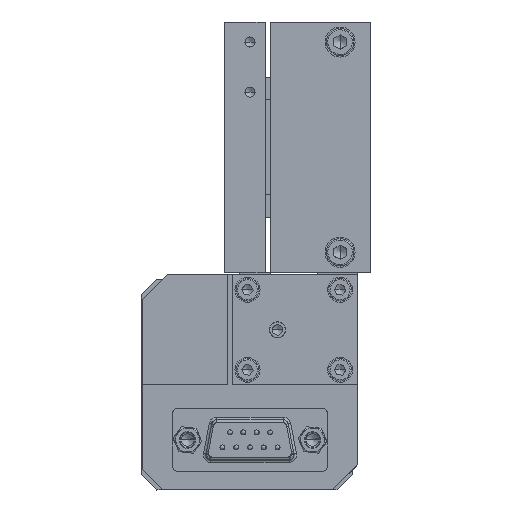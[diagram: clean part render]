
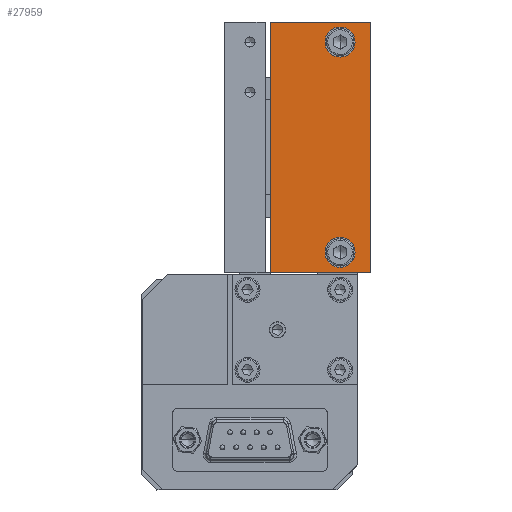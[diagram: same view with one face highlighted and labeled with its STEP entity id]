
A CAD part, left-side view. The second image highlights one B-rep face of the part: STEP entity #27959.
In plain terms, the highlighted planar face has unit normal (-1, 0, 0).
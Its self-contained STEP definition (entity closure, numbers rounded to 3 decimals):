
#2107 = VERTEX_POINT ( 'NONE', #35969 ) ;
#2148 = EDGE_CURVE ( 'NONE', #2188, #2107, #36120, .T. ) ;
#2188 = VERTEX_POINT ( 'NONE', #36239 ) ;
#2219 = EDGE_CURVE ( 'NONE', #2289, #2312, #36316, .T. ) ;
#2289 = VERTEX_POINT ( 'NONE', #36613 ) ;
#2312 = VERTEX_POINT ( 'NONE', #36685 ) ;
#27714 = VERTEX_POINT ( 'NONE', #86041 ) ;
#27716 = EDGE_CURVE ( 'NONE', #27714, #27717, #85590, .T. ) ;
#27717 = VERTEX_POINT ( 'NONE', #86124 ) ;
#27903 = EDGE_LOOP ( 'NONE', ( #27960, #27963, #27964, #27967 ) ) ;
#27944 = ORIENTED_EDGE ( 'NONE', *, *, #27945, .T. ) ;
#27945 = EDGE_CURVE ( 'NONE', #2312, #2289, #86400, .T. ) ;
#27946 = ORIENTED_EDGE ( 'NONE', *, *, #2148, .T. ) ;
#27947 = ORIENTED_EDGE ( 'NONE', *, *, #27948, .T. ) ;
#27948 = EDGE_CURVE ( 'NONE', #2107, #2188, #86395, .T. ) ;
#27959 = ADVANCED_FACE ( 'NONE', ( #86431, #86430, #86429 ), #86428, .T. ) ;
#27960 = ORIENTED_EDGE ( 'NONE', *, *, #27961, .F. ) ;
#27961 = EDGE_CURVE ( 'NONE', #27717, #27962, #86423, .T. ) ;
#27962 = VERTEX_POINT ( 'NONE', #86419 ) ;
#27963 = ORIENTED_EDGE ( 'NONE', *, *, #27716, .F. ) ;
#27964 = ORIENTED_EDGE ( 'NONE', *, *, #27965, .F. ) ;
#27965 = EDGE_CURVE ( 'NONE', #27966, #27714, #86418, .T. ) ;
#27966 = VERTEX_POINT ( 'NONE', #86414 ) ;
#27967 = ORIENTED_EDGE ( 'NONE', *, *, #27968, .T. ) ;
#27968 = EDGE_CURVE ( 'NONE', #27966, #27962, #86413, .T. ) ;
#27969 = EDGE_LOOP ( 'NONE', ( #27970, #27944 ) ) ;
#27970 = ORIENTED_EDGE ( 'NONE', *, *, #2219, .T. ) ;
#27971 = EDGE_LOOP ( 'NONE', ( #27946, #27947 ) ) ;
#35969 = CARTESIAN_POINT ( 'NONE',  ( 204.205, 143.142, 1.256 ) ) ;
#36112 = DIRECTION ( 'NONE',  ( 0., 0., 1. ) ) ;
#36114 = DIRECTION ( 'NONE',  ( 1., 0., 0. ) ) ;
#36116 = CARTESIAN_POINT ( 'NONE',  ( 204.205, 143.142, 4.256 ) ) ;
#36118 = AXIS2_PLACEMENT_3D ( 'NONE', #36116, #36114, #36112 ) ;
#36120 = CIRCLE ( 'NONE', #36118, 3. ) ;
#36239 = CARTESIAN_POINT ( 'NONE',  ( 204.205, 143.142, 7.256 ) ) ;
#36311 = DIRECTION ( 'NONE',  ( 0., 0., 1. ) ) ;
#36313 = DIRECTION ( 'NONE',  ( 1., 0., 0. ) ) ;
#36314 = CARTESIAN_POINT ( 'NONE',  ( 204.205, 143.142, 46.256 ) ) ;
#36315 = AXIS2_PLACEMENT_3D ( 'NONE', #36314, #36313, #36311 ) ;
#36316 = CIRCLE ( 'NONE', #36315, 3. ) ;
#36613 = CARTESIAN_POINT ( 'NONE',  ( 204.205, 143.142, 49.256 ) ) ;
#36685 = CARTESIAN_POINT ( 'NONE',  ( 204.205, 143.142, 43.256 ) ) ;
#85587 = CARTESIAN_POINT ( 'NONE',  ( 204.205, 137.142, 50.256 ) ) ;
#85590 = LINE ( 'NONE', #85587, #85813 ) ;
#85812 = DIRECTION ( 'NONE',  ( 0., 0., -1. ) ) ;
#85813 = VECTOR ( 'NONE', #85812, 1000. ) ;
#86041 = CARTESIAN_POINT ( 'NONE',  ( 204.205, 137.142, 50.256 ) ) ;
#86124 = CARTESIAN_POINT ( 'NONE',  ( 204.205, 137.142, 0.256 ) ) ;
#86391 = DIRECTION ( 'NONE',  ( 0., 0., 1. ) ) ;
#86392 = DIRECTION ( 'NONE',  ( 1., 0., 0. ) ) ;
#86393 = CARTESIAN_POINT ( 'NONE',  ( 204.205, 143.142, 4.256 ) ) ;
#86394 = AXIS2_PLACEMENT_3D ( 'NONE', #86393, #86392, #86391 ) ;
#86395 = CIRCLE ( 'NONE', #86394, 3. ) ;
#86396 = DIRECTION ( 'NONE',  ( 0., 0., 1. ) ) ;
#86397 = DIRECTION ( 'NONE',  ( 1., 0., 0. ) ) ;
#86398 = CARTESIAN_POINT ( 'NONE',  ( 204.205, 143.142, 46.256 ) ) ;
#86399 = AXIS2_PLACEMENT_3D ( 'NONE', #86398, #86397, #86396 ) ;
#86400 = CIRCLE ( 'NONE', #86399, 3. ) ;
#86410 = DIRECTION ( 'NONE',  ( 0., 0., -1. ) ) ;
#86411 = VECTOR ( 'NONE', #86410, 1000. ) ;
#86412 = CARTESIAN_POINT ( 'NONE',  ( 204.205, 157.142, 0.256 ) ) ;
#86413 = LINE ( 'NONE', #86412, #86411 ) ;
#86414 = CARTESIAN_POINT ( 'NONE',  ( 204.205, 157.142, 50.256 ) ) ;
#86415 = DIRECTION ( 'NONE',  ( 0., -1., 0. ) ) ;
#86416 = VECTOR ( 'NONE', #86415, 1000. ) ;
#86417 = CARTESIAN_POINT ( 'NONE',  ( 204.205, 149.142, 50.256 ) ) ;
#86418 = LINE ( 'NONE', #86417, #86416 ) ;
#86419 = CARTESIAN_POINT ( 'NONE',  ( 204.205, 157.142, 0.256 ) ) ;
#86420 = DIRECTION ( 'NONE',  ( 0., 1., 0. ) ) ;
#86421 = VECTOR ( 'NONE', #86420, 1000. ) ;
#86422 = CARTESIAN_POINT ( 'NONE',  ( 204.205, 157.142, 0.256 ) ) ;
#86423 = LINE ( 'NONE', #86422, #86421 ) ;
#86424 = DIRECTION ( 'NONE',  ( 0., 0., 1. ) ) ;
#86425 = DIRECTION ( 'NONE',  ( -1., 0., 0. ) ) ;
#86426 = CARTESIAN_POINT ( 'NONE',  ( 204.205, 137.142, 0.256 ) ) ;
#86427 = AXIS2_PLACEMENT_3D ( 'NONE', #86426, #86425, #86424 ) ;
#86428 = PLANE ( 'NONE',  #86427 ) ;
#86429 = FACE_BOUND ( 'NONE', #27971, .T. ) ;
#86430 = FACE_BOUND ( 'NONE', #27969, .T. ) ;
#86431 = FACE_OUTER_BOUND ( 'NONE', #27903, .T. ) ;
